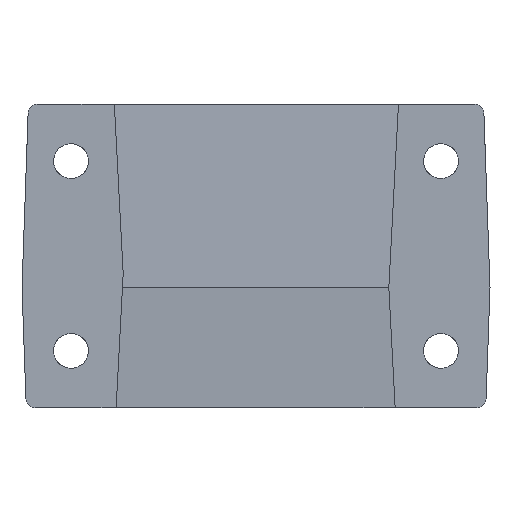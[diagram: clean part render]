
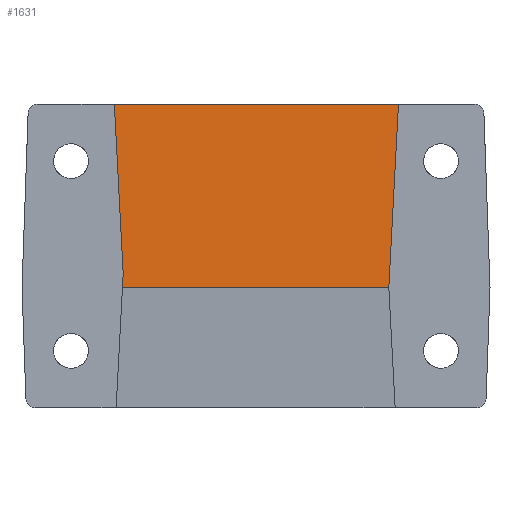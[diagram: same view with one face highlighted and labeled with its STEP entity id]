
A CAD part, front view. The second image highlights one B-rep face of the part: STEP entity #1631.
In plain terms, the highlighted planar face has unit normal (0, -0.999, 0.034).
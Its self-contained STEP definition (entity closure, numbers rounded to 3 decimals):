
#427=DIRECTION('',(-1.,0.,0.));
#428=VECTOR('',#427,89.841);
#429=CARTESIAN_POINT('',(45.04,-37.991,66.));
#430=LINE('',#429,#428);
#527=DIRECTION('',(-0.052,-0.034,-0.998));
#528=VECTOR('',#527,58.114);
#529=CARTESIAN_POINT('',(45.04,-37.991,66.));
#530=LINE('',#529,#528);
#531=DIRECTION('',(-1.,0.,0.));
#532=VECTOR('',#531,84.239);
#533=CARTESIAN_POINT('',(42.,-39.99,8.));
#534=LINE('',#533,#532);
#535=DIRECTION('',(-0.052,0.034,0.998));
#536=VECTOR('',#535,53.554);
#537=CARTESIAN_POINT('',(-42.,-39.827,12.551));
#538=LINE('',#537,#536);
#547=DIRECTION('',(-0.052,-0.034,-0.998));
#548=VECTOR('',#547,4.56);
#549=CARTESIAN_POINT('',(-42.,-39.827,12.551));
#550=LINE('',#549,#548);
#952=CARTESIAN_POINT('',(45.04,-37.991,66.));
#953=VERTEX_POINT('',#952);
#954=CARTESIAN_POINT('',(-44.801,-37.991,66.));
#955=VERTEX_POINT('',#954);
#998=CARTESIAN_POINT('',(42.,-39.99,8.));
#999=VERTEX_POINT('',#998);
#1008=CARTESIAN_POINT('',(-42.,-39.827,12.551));
#1009=VERTEX_POINT('',#1008);
#1010=CARTESIAN_POINT('',(-42.239,-39.983,
8.));
#1011=VERTEX_POINT('',#1010);
#1617=CARTESIAN_POINT('',(-74.,-37.991,66.));
#1618=DIRECTION('',(0.,-0.999,0.034));
#1619=DIRECTION('',(0.,-0.034,-0.999));
#1620=AXIS2_PLACEMENT_3D('',#1617,#1618,#1619);
#1621=PLANE('',#1620);
#1622=ORIENTED_EDGE('',*,*,#1491,.F.);
#1624=ORIENTED_EDGE('',*,*,#1623,.T.);
#1625=ORIENTED_EDGE('',*,*,#1163,.T.);
#1627=ORIENTED_EDGE('',*,*,#1626,.F.);
#1628=ORIENTED_EDGE('',*,*,#1608,.T.);
#1629=EDGE_LOOP('',(#1622,#1624,#1625,#1627,#1628));
#1630=FACE_OUTER_BOUND('',#1629,.F.);
#1631=ADVANCED_FACE('',(#1630),#1621,.T.);
#1163=EDGE_CURVE('',#999,#1011,#534,.T.);
#1491=EDGE_CURVE('',#953,#955,#430,.T.);
#1608=EDGE_CURVE('',#1009,#955,#538,.T.);
#1623=EDGE_CURVE('',#953,#999,#530,.T.);
#1626=EDGE_CURVE('',#1009,#1011,#550,.T.);
